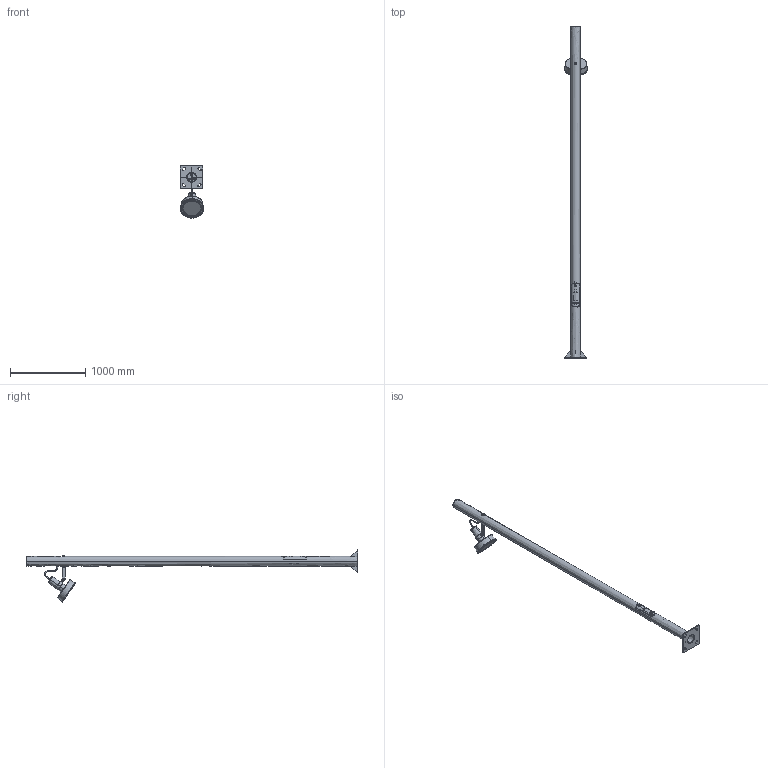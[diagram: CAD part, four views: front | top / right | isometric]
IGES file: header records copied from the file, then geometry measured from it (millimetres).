
Start section: SolidWorks IGES file using analytic representation for surfaces
Global section: file name: C:\SANTACOLE_PDM\Proyectos Catálogo\PROD-P12-019 -- ARNE PROYECTOR LED\6_Técnico comercial\3D WEB\IGES\Arne Columna 440cm 1S 1L.IGS; native system: SolidWorks 2013; preprocessor: SolidWorks 2013; author: jordi.munoz; date: 150513.151025; units: millimetre
Bounding box: 310 x 4400 x 690.94 mm (x, y, z)
Surface area: 4450785.9 mm2 (no closed solid volume)
Topology: 0 solids, 0 shells, 3203 faces, 28968 edges, 28788 vertices
Faces by surface type: bspline 2226, revolution 977
